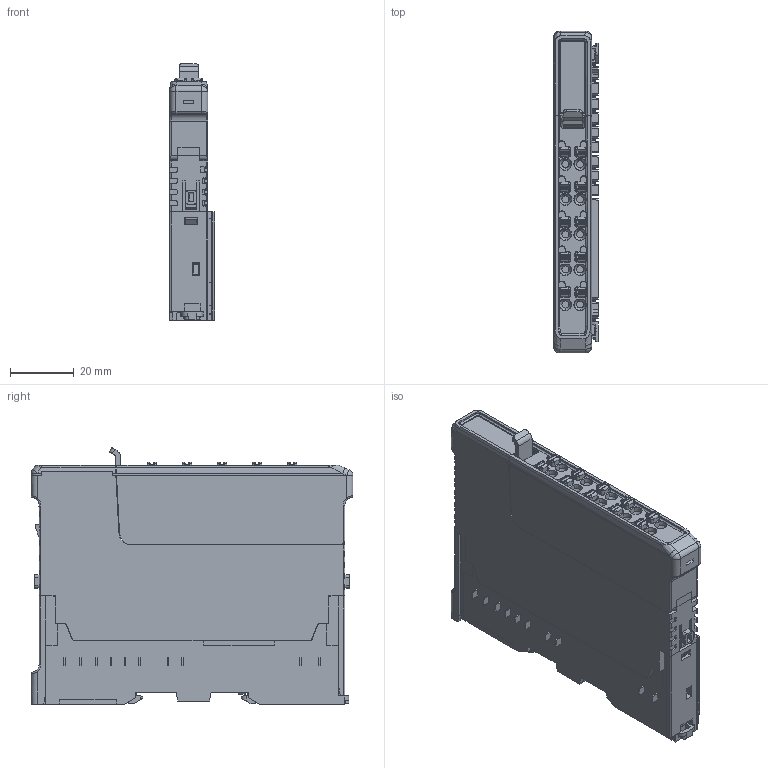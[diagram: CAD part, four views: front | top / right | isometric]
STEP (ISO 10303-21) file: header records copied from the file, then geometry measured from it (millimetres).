
FILE_DESCRIPTION((''),'2;1');
FILE_NAME('CARD-MODULE_ASM','2021-04-26T17:40:45',('서영민'),(''),'CREO PARAMETRIC BY PTC INC, 2020454','CREO PARAMETRIC BY PTC INC, 2020454','');
FILE_SCHEMA(('CONFIG_CONTROL_DESIGN'));
Products named in the file (4): CARD_BASE; TERMINAL_PLUG; CARD_BODY; CARD-MODULE_ASM
Assembly tree (3 placements, depth 2):
  CARD-MODULE_ASM
    CARD_BASE
    TERMINAL_PLUG
    CARD_BODY
Bounding box: 14.15 x 101 x 80.49 mm (x, y, z)
Volume: 78485.9 mm3; surface area: 39675.5 mm2
Topology: 4 solids, 9 shells, 4010 faces, 10541 edges, 6625 vertices
Faces by surface type: plane 3011, cylinder 698, bspline 142, cone 105, torus 48, sphere 6
Entity records: 132354 total; most frequent: CARTESIAN_POINT 35321, ORIENTED_EDGE 21082, DIRECTION 18510, EDGE_CURVE 10541, VECTOR 8410, LINE 8410, VERTEX_POINT 6625, AXIS2_PLACEMENT_3D 5050
